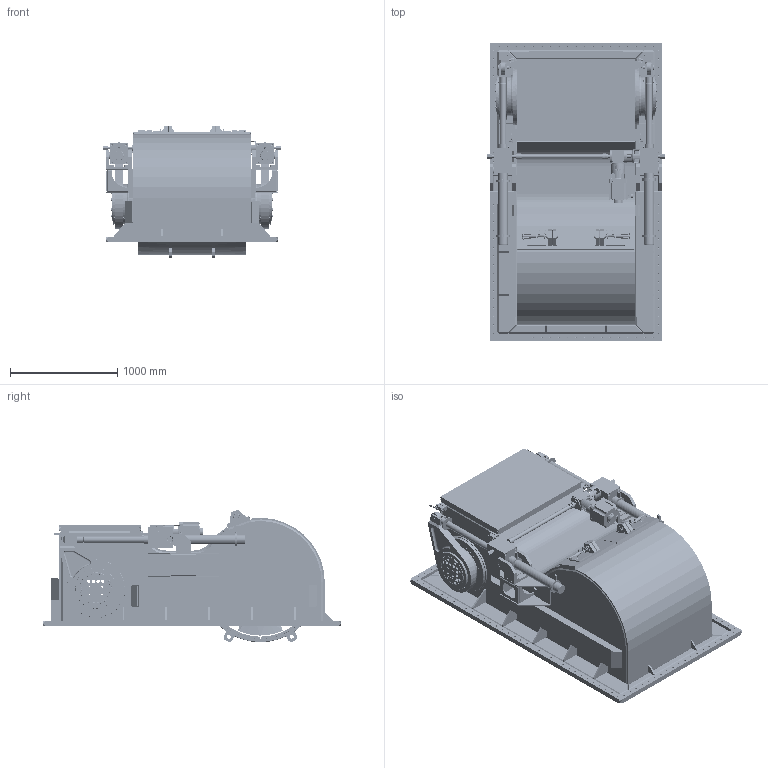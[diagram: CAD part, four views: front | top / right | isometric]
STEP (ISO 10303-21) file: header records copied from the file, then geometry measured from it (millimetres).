
FILE_DESCRIPTION(/* description */ (''),/* implementation_level */ '2;1');
FILE_NAME(/* name */ 'Q:\THRUSTERS\THRUSTER SALES & SUPPORT DOCS\THRUSTER Sales\E-S\E-1000-S\E-1000-S-RETRACTED.stp',/* time_stamp */ '2021-03-24T14:33:49+00:00',/* author */ ('Barney.Webborn'),/* organization */ (''),/* preprocessor_version */ 'ST-DEVELOPER v17.2',/* originating_system */ 'Autodesk Inventor 2019',/* authorisation */ '');
FILE_SCHEMA (('AUTOMOTIVE_DESIGN { 1 0 10303 214 3 1 1 }'));
Length unit declared in the file: millimetre
Products named in the file (1): E-1000-S_Shrinkwrap_1
Bounding box: 1663 x 2775 x 1234.61 mm (x, y, z)
Volume: 555269575.3 mm3; surface area: 54586420.3 mm2
Topology: 18 solids, 18 shells, 5466 faces, 14500 edges, 9287 vertices
Faces by surface type: plane 3268, cylinder 1382, cone 473, torus 249, sphere 48, bspline 46
Full cylindrical faces by diameter (mm): 3 x12, 4.95 x4, 5.5 x4, 7 x8, 7.2 x4, 7.5 x4, 8 x4, 8.5 x8, 10 x8, 12 x10, 13 x8, 13.041 x16, 15.3 x1, 15.6 x2, 16 x14, 16.5 x130, 16.75 x24, 17 x114, 17.29 x16, 17.5 x20, 18.376 x4, 20 x4, 20.5 x8, 21.735 x8, 22 x8, 23.75 x2, 24 x12, 24.995 x16, 25 x15, 26.25 x2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
Entity records: 179288 total; most frequent: CARTESIAN_POINT 35276, DIRECTION 29356, ORIENTED_EDGE 28600, EDGE_CURVE 14300, AXIS2_PLACEMENT_3D 10310, VERTEX_POINT 9287, LINE 8736, VECTOR 8736
